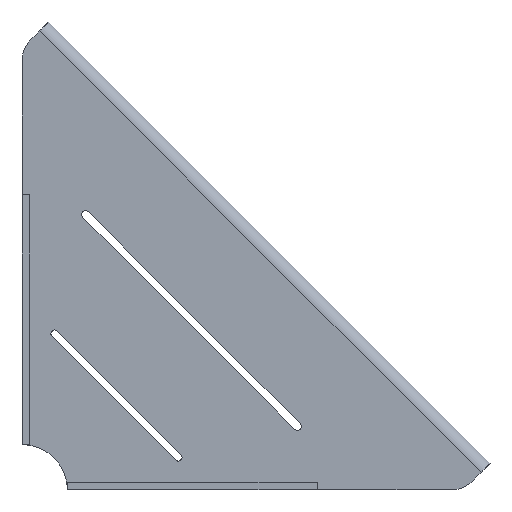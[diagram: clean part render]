
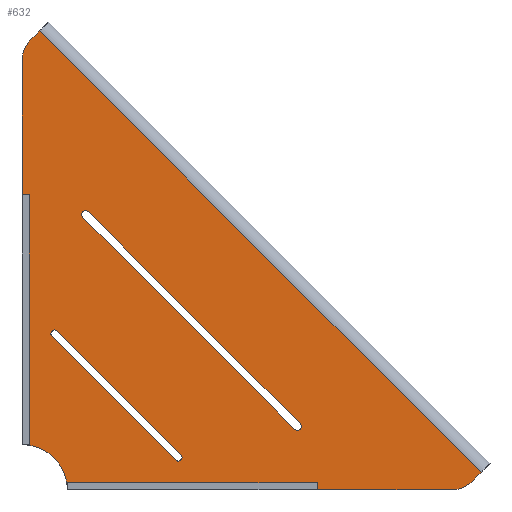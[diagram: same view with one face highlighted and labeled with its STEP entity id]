
A CAD part, front view. The second image highlights one B-rep face of the part: STEP entity #632.
In plain terms, the highlighted planar face has unit normal (0, -1, 0).
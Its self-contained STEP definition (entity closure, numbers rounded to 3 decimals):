
#48 = VERTEX_POINT('',#49);
#49 = CARTESIAN_POINT('',(7.071,-2.,183.848)
  );
#100 = VERTEX_POINT('',#101);
#101 = CARTESIAN_POINT('',(3.515,-2.,180.291
    ));
#107 = EDGE_CURVE('',#100,#48,#108,.T.);
#108 = LINE('',#109,#110);
#109 = CARTESIAN_POINT('',(3.515,-2.,180.291
    ));
#110 = VECTOR('',#111,1.);
#111 = DIRECTION('',(0.707,0.,0.707));
#157 = VERTEX_POINT('',#158);
#158 = CARTESIAN_POINT('',(183.848,-2.,7.071
    ));
#165 = EDGE_CURVE('',#157,#166,#168,.T.);
#166 = VERTEX_POINT('',#167);
#167 = CARTESIAN_POINT('',(180.291,-2.,
    3.515));
#168 = LINE('',#169,#170);
#169 = CARTESIAN_POINT('',(183.848,-2.,7.071
    ));
#170 = VECTOR('',#171,1.);
#171 = DIRECTION('',(-0.707,0.,-0.707)
  );
#198 = VERTEX_POINT('',#199);
#199 = CARTESIAN_POINT('',(171.806,-2.,
    0.));
#205 = EDGE_CURVE('',#198,#206,#208,.T.);
#206 = VERTEX_POINT('',#207);
#207 = CARTESIAN_POINT('',(18.187,-2.,
    0.));
#208 = LINE('',#209,#210);
#209 = CARTESIAN_POINT('',(18.187,-2.,
    0.));
#210 = VECTOR('',#211,1.);
#211 = DIRECTION('',(-1.,0.,0.));
#245 = VERTEX_POINT('',#246);
#246 = CARTESIAN_POINT('',(0.,-2.,
    18.187));
#252 = EDGE_CURVE('',#206,#245,#253,.T.);
#253 = CIRCLE('',#254,18.187);
#254 = AXIS2_PLACEMENT_3D('',#255,#256,#257);
#255 = CARTESIAN_POINT('',(0.,-2.,
    0.));
#256 = DIRECTION('',(0.,-1.,0.));
#257 = DIRECTION('',(1.,0.,0.));
#269 = EDGE_CURVE('',#245,#270,#272,.T.);
#270 = VERTEX_POINT('',#271);
#271 = CARTESIAN_POINT('',(0.,-2.,
    171.806));
#272 = LINE('',#273,#274);
#273 = CARTESIAN_POINT('',(0.,-2.,
    171.806));
#274 = VECTOR('',#275,1.);
#275 = DIRECTION('',(0.,0.,1.));
#300 = EDGE_CURVE('',#270,#100,#301,.T.);
#301 = CIRCLE('',#302,12.);
#302 = AXIS2_PLACEMENT_3D('',#303,#304,#305);
#303 = CARTESIAN_POINT('',(12.,-2.,
    171.806));
#304 = DIRECTION('',(0.,1.,0.));
#305 = DIRECTION('',(1.,0.,-0.));
#332 = EDGE_CURVE('',#166,#198,#333,.T.);
#333 = CIRCLE('',#334,12.);
#334 = AXIS2_PLACEMENT_3D('',#335,#336,#337);
#335 = CARTESIAN_POINT('',(171.806,-2.,
    12.));
#336 = DIRECTION('',(0.,1.,0.));
#337 = DIRECTION('',(1.,0.,-0.));
#350 = VERTEX_POINT('',#351);
#351 = CARTESIAN_POINT('',(111.37,-2.,
    26.516));
#357 = EDGE_CURVE('',#350,#358,#360,.T.);
#358 = VERTEX_POINT('',#359);
#359 = CARTESIAN_POINT('',(26.516,-2.,
    111.37));
#360 = LINE('',#361,#362);
#361 = CARTESIAN_POINT('',(26.516,-2.,
    111.37));
#362 = VECTOR('',#363,1.);
#363 = DIRECTION('',(-0.707,0.,0.707));
#397 = VERTEX_POINT('',#398);
#398 = CARTESIAN_POINT('',(24.394,-2.,
    109.249));
#404 = EDGE_CURVE('',#358,#397,#405,.T.);
#405 = CIRCLE('',#406,1.5);
#406 = AXIS2_PLACEMENT_3D('',#407,#408,#409);
#407 = CARTESIAN_POINT('',(25.455,-2.,
    110.309));
#408 = DIRECTION('',(0.,-1.,0.));
#409 = DIRECTION('',(1.,0.,0.));
#421 = EDGE_CURVE('',#397,#422,#424,.T.);
#422 = VERTEX_POINT('',#423);
#423 = CARTESIAN_POINT('',(109.249,-2.,
    24.394));
#424 = LINE('',#425,#426);
#425 = CARTESIAN_POINT('',(109.249,-2.,
    24.394));
#426 = VECTOR('',#427,1.);
#427 = DIRECTION('',(0.707,0.,-0.707));
#451 = EDGE_CURVE('',#422,#350,#452,.T.);
#452 = CIRCLE('',#453,1.5);
#453 = AXIS2_PLACEMENT_3D('',#454,#455,#456);
#454 = CARTESIAN_POINT('',(110.309,-2.,
    25.455));
#455 = DIRECTION('',(0.,-1.,0.));
#456 = DIRECTION('',(1.,0.,0.));
#478 = VERTEX_POINT('',#479);
#479 = CARTESIAN_POINT('',(63.64,-2.,
    14.141));
#485 = EDGE_CURVE('',#478,#486,#488,.T.);
#486 = VERTEX_POINT('',#487);
#487 = CARTESIAN_POINT('',(14.141,-2.,
    63.64));
#488 = LINE('',#489,#490);
#489 = CARTESIAN_POINT('',(14.141,-2.,
    63.64));
#490 = VECTOR('',#491,1.);
#491 = DIRECTION('',(-0.707,0.,0.707));
#525 = VERTEX_POINT('',#526);
#526 = CARTESIAN_POINT('',(12.02,-2.,
    61.519));
#532 = EDGE_CURVE('',#486,#525,#533,.T.);
#533 = CIRCLE('',#534,1.5);
#534 = AXIS2_PLACEMENT_3D('',#535,#536,#537);
#535 = CARTESIAN_POINT('',(13.081,-2.,
    62.58));
#536 = DIRECTION('',(0.,-1.,0.));
#537 = DIRECTION('',(1.,0.,0.));
#549 = EDGE_CURVE('',#525,#550,#552,.T.);
#550 = VERTEX_POINT('',#551);
#551 = CARTESIAN_POINT('',(61.519,-2.,
    12.02));
#552 = LINE('',#553,#554);
#553 = CARTESIAN_POINT('',(61.519,-2.,
    12.02));
#554 = VECTOR('',#555,1.);
#555 = DIRECTION('',(0.707,0.,-0.707));
#579 = EDGE_CURVE('',#550,#478,#580,.T.);
#580 = CIRCLE('',#581,1.5);
#581 = AXIS2_PLACEMENT_3D('',#582,#583,#584);
#582 = CARTESIAN_POINT('',(62.58,-2.,
    13.081));
#583 = DIRECTION('',(0.,-1.,0.));
#584 = DIRECTION('',(1.,0.,0.));
#632 = ADVANCED_FACE('',(#633,#648,#654),#660,.T.);
#633 = FACE_BOUND('',#634,.T.);
#634 = EDGE_LOOP('',(#635,#641,#642,#643,#644,#645,#646,#647));
#635 = ORIENTED_EDGE('',*,*,#636,.T.);
#636 = EDGE_CURVE('',#157,#48,#637,.T.);
#637 = LINE('',#638,#639);
#638 = CARTESIAN_POINT('',(7.071,-2.,183.848
    ));
#639 = VECTOR('',#640,1.);
#640 = DIRECTION('',(-0.707,0.,0.707)
  );
#641 = ORIENTED_EDGE('',*,*,#107,.F.);
#642 = ORIENTED_EDGE('',*,*,#300,.F.);
#643 = ORIENTED_EDGE('',*,*,#269,.F.);
#644 = ORIENTED_EDGE('',*,*,#252,.F.);
#645 = ORIENTED_EDGE('',*,*,#205,.F.);
#646 = ORIENTED_EDGE('',*,*,#332,.F.);
#647 = ORIENTED_EDGE('',*,*,#165,.F.);
#648 = FACE_BOUND('',#649,.T.);
#649 = EDGE_LOOP('',(#650,#651,#652,#653));
#650 = ORIENTED_EDGE('',*,*,#357,.F.);
#651 = ORIENTED_EDGE('',*,*,#451,.F.);
#652 = ORIENTED_EDGE('',*,*,#421,.F.);
#653 = ORIENTED_EDGE('',*,*,#404,.F.);
#654 = FACE_BOUND('',#655,.T.);
#655 = EDGE_LOOP('',(#656,#657,#658,#659));
#656 = ORIENTED_EDGE('',*,*,#485,.F.);
#657 = ORIENTED_EDGE('',*,*,#579,.F.);
#658 = ORIENTED_EDGE('',*,*,#549,.F.);
#659 = ORIENTED_EDGE('',*,*,#532,.F.);
#660 = PLANE('',#661);
#661 = AXIS2_PLACEMENT_3D('',#662,#663,#664);
#662 = CARTESIAN_POINT('',(-88.388,-2.,
    88.388));
#663 = DIRECTION('',(0.,-1.,0.));
#664 = DIRECTION('',(0.707,0.,-0.707));
